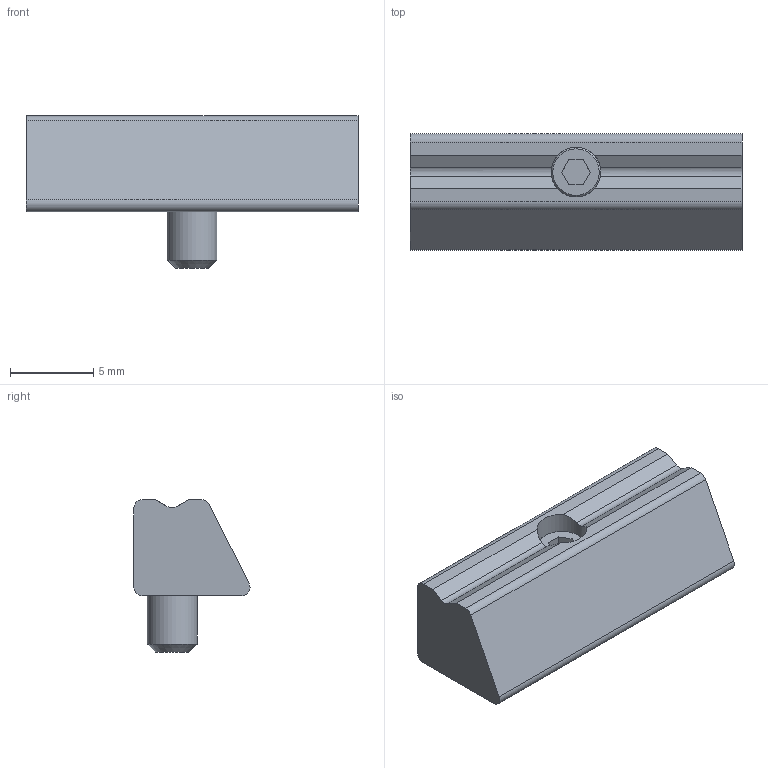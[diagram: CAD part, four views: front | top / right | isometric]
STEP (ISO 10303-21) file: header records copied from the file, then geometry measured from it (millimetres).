
FILE_DESCRIPTION(('STEP AP214'),'1');
FILE_NAME('NW40.stp','2017-07-25T06:49:25',(' '),(' '),'Spatial InterOp 3D',' ',' ');
FILE_SCHEMA(('automotive_design'));
Length unit declared in the file: millimetre
Products named in the file (3): NW40; M3*8押しねじ
Assembly tree (2 placements, depth 2):
  NW40
    NW40
    M3*8押しねじ
Bounding box: 20 x 6.99 x 9.2 mm (x, y, z)
Volume: 674 mm3; surface area: 664 mm2
Topology: 2 solids, 2 shells, 30 faces, 76 edges, 50 vertices
Faces by surface type: plane 20, cylinder 8, cone 2
Full cylindrical faces by diameter (mm): 3 x2
Entity records: 1190 total; most frequent: CARTESIAN_POINT 163, DIRECTION 156, ORIENTED_EDGE 142, EDGE_CURVE 71, AXIS2_PLACEMENT_3D 54, VERTEX_POINT 49, LINE 48, VECTOR 48
